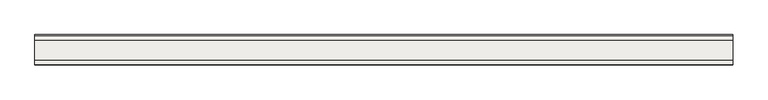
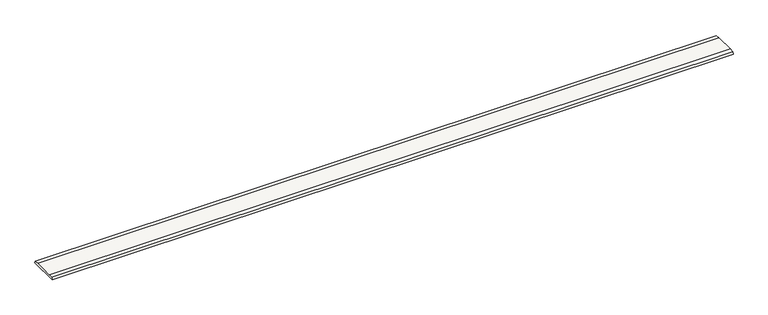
"""IFC4 building model written with IfcOpenShell, lengths in millimetres: slab geometry, ROSA GRES_245 FL_Colocación en plano : Rejilla 245 FL_Tresor_Java_Anti-Slip."""

from ifc_helpers import new_model, si_unit, point, frame, frame_2d, origin, place, context, project, spatial, polyline, circle_curve, trimmed, segment, composite_curve, outline, extrude, source, transform, mapped, element, save


def slab_1a996d3c(model_context):
    return source(origin(), model_context, "Body", "SweptSolid", [
        extrude(outline(composite_curve([segment(polyline([(238.1232639, -3.0209998), (244.0502169, -22.0), (0.9482737, -22.0), (6.8503894, -3.0704499)]), True, "CONTINUOUS"), segment(trimmed(circle_curve(frame_2d((86.2847076, -720.2412375)), 721.556477), [point((6.8503894, -3.0704499))], [point((42.7380732, 0.0))], False, "CARTESIAN"), True, "CONTINUOUS"), segment(polyline([(42.7380732, 0.0), (202.6833158, 0.0)]), True, "CONTINUOUS"), segment(trimmed(circle_curve(frame_2d((159.1366814, -720.2412375)), 721.556477), [point((202.6833158, 0.0))], [point((238.1232639, -3.0209998))], False, "CARTESIAN"), True, "CONTINUOUS")], self_intersect=False)), frame((0.0, 0.0, 0.0), z_axis=(1.0, 0.0, 0.0), x_axis=(0.0, 1.0, 0.0)), (0.0, 0.0, 1.0), 5585.0),
    ])


if __name__ == "__main__":
    model = new_model("IFC4")
    model_context = context("Model", 3, world=origin())
    ifc_project = project(units=[si_unit("LENGTHUNIT", "METRE", prefix="MILLI")], contexts=[model_context])
    site = spatial("IfcSite", under=ifc_project)
    building = spatial("IfcBuilding", under=site)
    placement = place(None, origin())
    slab_shape = slab_1a996d3c(model_context)
    element("IfcSlab", 1, ObjectType="ROSA GRES_245 FL_Colocación en plano : Rejilla 245 FL_Tresor_Java_Anti-Slip", at=placement, inside=building, context=model_context, shape_type="MappedRepresentation", body=[
        mapped(slab_shape, transform((0.0, 0.0, 0.0), x_axis=(1.0, 0.0, 0.0), y_axis=(0.0, 1.0, 0.0), z_axis=(0.0, 0.0, 1.0))),
    ])
    save(model, "model.ifc")
